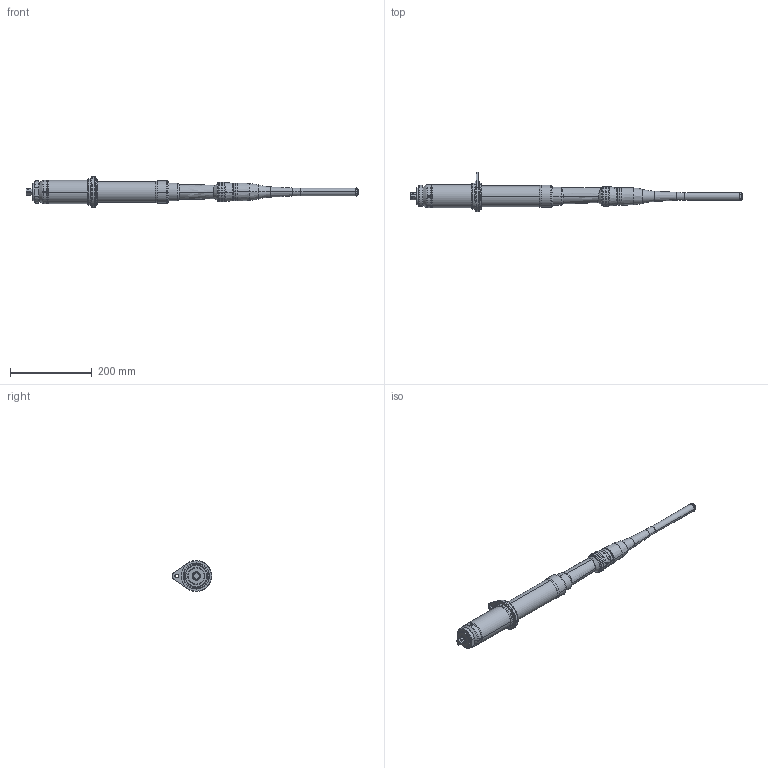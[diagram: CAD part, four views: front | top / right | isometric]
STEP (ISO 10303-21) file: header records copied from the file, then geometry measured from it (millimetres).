
FILE_DESCRIPTION((''),'2;1');
FILE_NAME('ERDL_4-135_6151353950_ASM','2014-06-26T',('greextfpav'),(''),'PRO/ENGINEER BY PARAMETRIC TECHNOLOGY CORPORATION, 2013410','PRO/ENGINEER BY PARAMETRIC TECHNOLOGY CORPORATION, 2013410','');
FILE_SCHEMA(('AUTOMOTIVE_DESIGN { 1 0 10303 214 1 1 1 1 }'));
Products named in the file (27): _ERDL_4-135_6151353950; 6156730910; 6159150550; CABLE-ER; 6156300270; 6155731320; 6156611010; 6155731330; 6156160970; 6159162060; 6159174890_ASM; 6159174880_ASM; 6156450690; 6156160930; 6156430690; 6156731610; 6155731340; 6156890400; 6159161420; 6159160210; 6153965110_ASM; 6155210852; 6156250660; 6156370830; 6156800850; 6155210850_ASM; ERDL_4-135_6151353950_ASM
Assembly tree (33 placements, depth 4):
  ERDL_4-135_6151353950_ASM
    _ERDL_4-135_6151353950
    6156730910
    6153965110_ASM
      6159150550
      CABLE-ER
      6156300270
      6155731320
      6156611010
      6155731330
      6156160970  x2
      6159162060
      6159174890_ASM
        6159162060
      6159174880_ASM
        6159162060
      6156450690  x3
      6156160930  x3
      6156430690
      6156731610
      6155731340
      6156890400
      6159161420
      6159160210
    6155210850_ASM
      6155210852
      6156250660
      6156370830
      6156800850
Bounding box: 812.27 x 96.86 x 75.77 mm (x, y, z)
Volume: 1140714.6 mm3; surface area: 241271.2 mm2
Topology: 97 solids, 104 shells, 1254 faces, 2747 edges, 1732 vertices
Faces by surface type: cylinder 550, plane 392, cone 140, torus 103, bspline 69
Entity records: 65137 total; most frequent: CARTESIAN_POINT 22144, DIRECTION 5936, ORIENTED_EDGE 4982, AXIS2_PLACEMENT_3D 2517, EDGE_CURVE 2503, PRESENTATION_STYLE_ASSIGNMENT 2283, STYLED_ITEM 2125, CURVE_STYLE 1940
